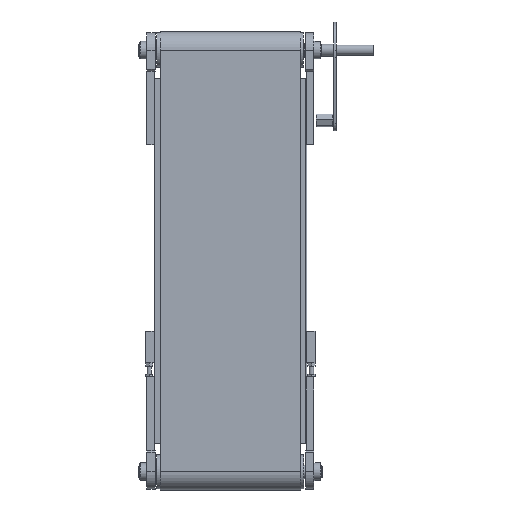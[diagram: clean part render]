
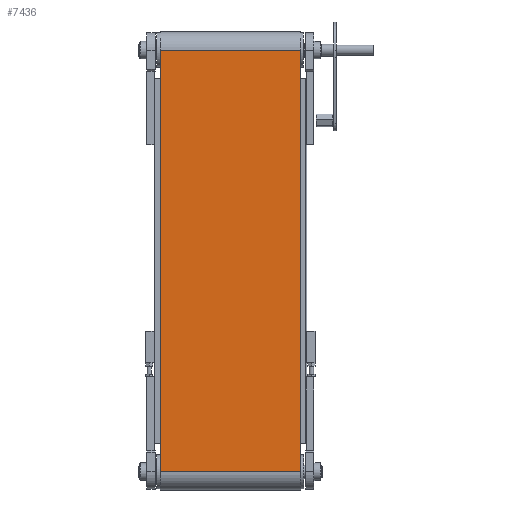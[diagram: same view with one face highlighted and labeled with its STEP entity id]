
A CAD part, front view. The second image highlights one B-rep face of the part: STEP entity #7436.
In plain terms, the highlighted planar face has unit normal (0, -1, 0).
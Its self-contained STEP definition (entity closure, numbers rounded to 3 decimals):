
#669 = CARTESIAN_POINT ( 'NONE',  ( 600., -26., -100. ) ) ;
#1346 = LINE ( 'NONE', #8956, #3076 ) ;
#1608 = CARTESIAN_POINT ( 'NONE',  ( 600., -26., 100. ) ) ;
#2035 = CARTESIAN_POINT ( 'NONE',  ( 0., -26., 100. ) ) ;
#2184 = VECTOR ( 'NONE', #9696, 1000. ) ;
#2377 = CARTESIAN_POINT ( 'NONE',  ( 600., -26., 100. ) ) ;
#2381 = ORIENTED_EDGE ( 'NONE', *, *, #11089, .F. ) ;
#2732 = DIRECTION ( 'NONE',  ( 1., 0., 0. ) ) ;
#3076 = VECTOR ( 'NONE', #2732, 1000. ) ;
#3501 = VERTEX_POINT ( 'NONE', #2377 ) ;
#3570 = CARTESIAN_POINT ( 'NONE',  ( 0., -26., -100. ) ) ;
#3715 = ORIENTED_EDGE ( 'NONE', *, *, #9788, .F. ) ;
#3809 = LINE ( 'NONE', #13085, #12865 ) ;
#4094 = DIRECTION ( 'NONE',  ( 0., 1., 0. ) ) ;
#4300 = CARTESIAN_POINT ( 'NONE',  ( 600., -26., 100. ) ) ;
#5330 = EDGE_CURVE ( 'NONE', #5424, #6293, #1346, .T. ) ;
#5424 = VERTEX_POINT ( 'NONE', #3570 ) ;
#6293 = VERTEX_POINT ( 'NONE', #669 ) ;
#6341 = ORIENTED_EDGE ( 'NONE', *, *, #15670, .T. ) ;
#7436 = ADVANCED_FACE ( 'NONE', ( #10250 ), #10370, .F. ) ;
#7965 = AXIS2_PLACEMENT_3D ( 'NONE', #1608, #4094, #11448 ) ;
#8498 = VECTOR ( 'NONE', #13825, 1000. ) ;
#8621 = ORIENTED_EDGE ( 'NONE', *, *, #5330, .T. ) ;
#8956 = CARTESIAN_POINT ( 'NONE',  ( 600., -26., -100. ) ) ;
#9696 = DIRECTION ( 'NONE',  ( 0., 0., -1. ) ) ;
#9788 = EDGE_CURVE ( 'NONE', #3501, #6293, #3809, .T. ) ;
#10040 = LINE ( 'NONE', #2035, #2184 ) ;
#10250 = FACE_OUTER_BOUND ( 'NONE', #15212, .T. ) ;
#10370 = PLANE ( 'NONE',  #7965 ) ;
#10959 = CARTESIAN_POINT ( 'NONE',  ( 0., -26., 100. ) ) ;
#11089 = EDGE_CURVE ( 'NONE', #13457, #3501, #15131, .T. ) ;
#11448 = DIRECTION ( 'NONE',  ( -1., 0., 0. ) ) ;
#11758 = DIRECTION ( 'NONE',  ( 0., 0., -1. ) ) ;
#12865 = VECTOR ( 'NONE', #11758, 1000. ) ;
#13085 = CARTESIAN_POINT ( 'NONE',  ( 600., -26., 100. ) ) ;
#13457 = VERTEX_POINT ( 'NONE', #10959 ) ;
#13825 = DIRECTION ( 'NONE',  ( 1., 0., 0. ) ) ;
#15131 = LINE ( 'NONE', #4300, #8498 ) ;
#15212 = EDGE_LOOP ( 'NONE', ( #8621, #3715, #2381, #6341 ) ) ;
#15670 = EDGE_CURVE ( 'NONE', #13457, #5424, #10040, .T. ) ;
